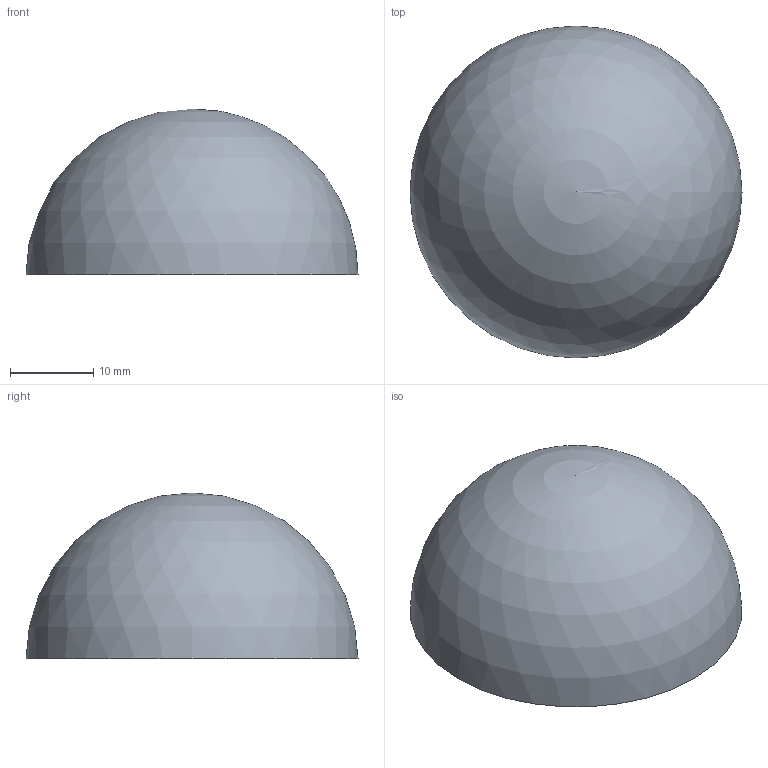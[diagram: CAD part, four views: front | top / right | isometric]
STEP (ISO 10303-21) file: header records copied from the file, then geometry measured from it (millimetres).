
FILE_DESCRIPTION(('step-conformance generated part'),'2;1');
FILE_NAME('dome.step','2026-10-12T00:00:00',(''),(''),'step-conformance generate','step-conformance generate','');
FILE_SCHEMA(('AUTOMOTIVE_DESIGN { 1 0 10303 214 1 1 1 1 }'));
Length unit declared in the file: millimetre
Products named in the file (1): dome
Bounding box: 40 x 40 x 20 mm (x, y, z)
Volume: 16755.2 mm3; surface area: 3769.9 mm2
Topology: 1 solids, 1 shells, 2 faces, 3 edges, 2 vertices
Faces by surface type: plane 1, sphere 1
Entity records: 43 total; most frequent: DIRECTION 8, CARTESIAN_POINT 5, AXIS2_PLACEMENT_3D 4, ORIENTED_EDGE 2, EDGE_LOOP 2, FACE_OUTER_BOUND 2, ADVANCED_FACE 2, UNCERTAINTY_MEASURE_WITH_UNIT 1
